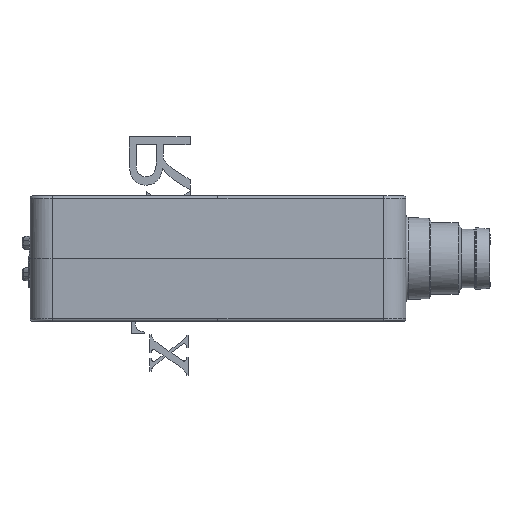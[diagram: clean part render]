
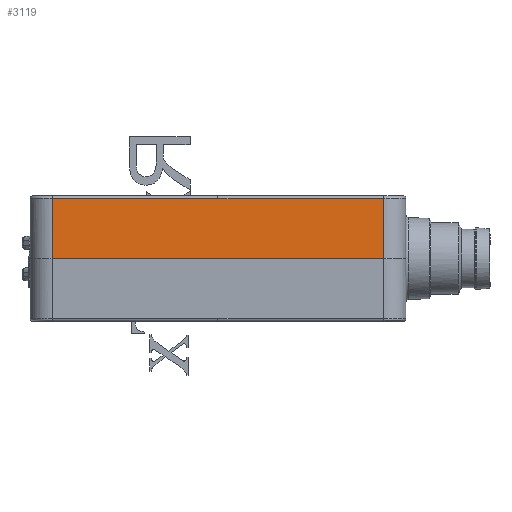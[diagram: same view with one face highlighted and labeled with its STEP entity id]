
A CAD part, left-side view. The second image highlights one B-rep face of the part: STEP entity #3119.
In plain terms, the highlighted free-form (B-spline) face has degree [1, 1] with [2, 2] control points.
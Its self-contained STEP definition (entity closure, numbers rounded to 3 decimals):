
#3119=ADVANCED_FACE('',(#3828),#3491,.T.);
#3491=B_SPLINE_SURFACE_WITH_KNOTS('',1,1,((#17756,#17757),(#17758,#17759)),
 .UNSPECIFIED.,.F.,.F.,.F.,(2,2),(2,2),(0.,1.),(0.,1.),.UNSPECIFIED.);
#3828=FACE_OUTER_BOUND('',#4402,.T.);
#4402=EDGE_LOOP('',(#6093,#6094,#6095,#6096,#6097));
#6093=ORIENTED_EDGE('',*,*,#8461,.T.);
#6094=ORIENTED_EDGE('',*,*,#8668,.F.);
#6095=ORIENTED_EDGE('',*,*,#8666,.T.);
#6096=ORIENTED_EDGE('',*,*,#8459,.T.);
#6097=ORIENTED_EDGE('',*,*,#8464,.T.);
#7505=VERTEX_POINT('',#15570);
#7507=VERTEX_POINT('',#15594);
#7508=VERTEX_POINT('',#15606);
#7510=VERTEX_POINT('',#15610);
#7621=VERTEX_POINT('',#17747);
#8459=EDGE_CURVE('',#7505,#7507,#9522,.T.);
#8461=EDGE_CURVE('',#7510,#7508,#9523,.T.);
#8464=EDGE_CURVE('',#7507,#7510,#9525,.T.);
#8666=EDGE_CURVE('',#7621,#7505,#9646,.T.);
#8668=EDGE_CURVE('',#7621,#7508,#9648,.T.);
#9522=B_SPLINE_CURVE_WITH_KNOTS('',1,(#15595,#15596),.UNSPECIFIED.,.F.,
 .F.,(2,2),(0.,1.),.UNSPECIFIED.);
#9523=B_SPLINE_CURVE_WITH_KNOTS('',1,(#15608,#15609),.UNSPECIFIED.,.F.,
 .F.,(2,2),(0.,1.),.UNSPECIFIED.);
#9525=B_SPLINE_CURVE_WITH_KNOTS('',1,(#15623,#15624),.UNSPECIFIED.,.F.,
 .F.,(2,2),(0.,1.),.UNSPECIFIED.);
#9646=B_SPLINE_CURVE_WITH_KNOTS('',1,(#17745,#17746),.UNSPECIFIED.,.F.,
 .F.,(2,2),(0.,1.),.UNSPECIFIED.);
#9648=B_SPLINE_CURVE_WITH_KNOTS('',1,(#17754,#17755),.UNSPECIFIED.,.F.,
 .F.,(2,2),(0.,1.),.UNSPECIFIED.);
#15570=CARTESIAN_POINT('',(-31.794,38.477,-0.29));
#15594=CARTESIAN_POINT('',(-31.677,38.477,6.415));
#15595=CARTESIAN_POINT('',(-31.794,38.477,-0.29));
#15596=CARTESIAN_POINT('',(-31.677,38.477,6.415));
#15606=CARTESIAN_POINT('',(-31.677,75.477,6.415));
#15608=CARTESIAN_POINT('',(-31.677,56.977,6.415));
#15609=CARTESIAN_POINT('',(-31.677,75.477,6.415));
#15610=CARTESIAN_POINT('',(-31.677,56.977,6.415));
#15623=CARTESIAN_POINT('',(-31.677,38.477,6.415));
#15624=CARTESIAN_POINT('',(-31.677,56.977,6.415));
#17745=CARTESIAN_POINT('',(-31.794,75.477,-0.29));
#17746=CARTESIAN_POINT('',(-31.794,38.477,-0.29));
#17747=CARTESIAN_POINT('',(-31.794,75.477,-0.29));
#17754=CARTESIAN_POINT('',(-31.794,75.477,-0.29));
#17755=CARTESIAN_POINT('',(-31.677,75.477,6.415));
#17756=CARTESIAN_POINT('',(-31.794,35.977,-0.29));
#17757=CARTESIAN_POINT('',(-31.794,79.177,-0.29));
#17758=CARTESIAN_POINT('',(-31.666,35.977,7.06));
#17759=CARTESIAN_POINT('',(-31.666,79.177,7.06));
